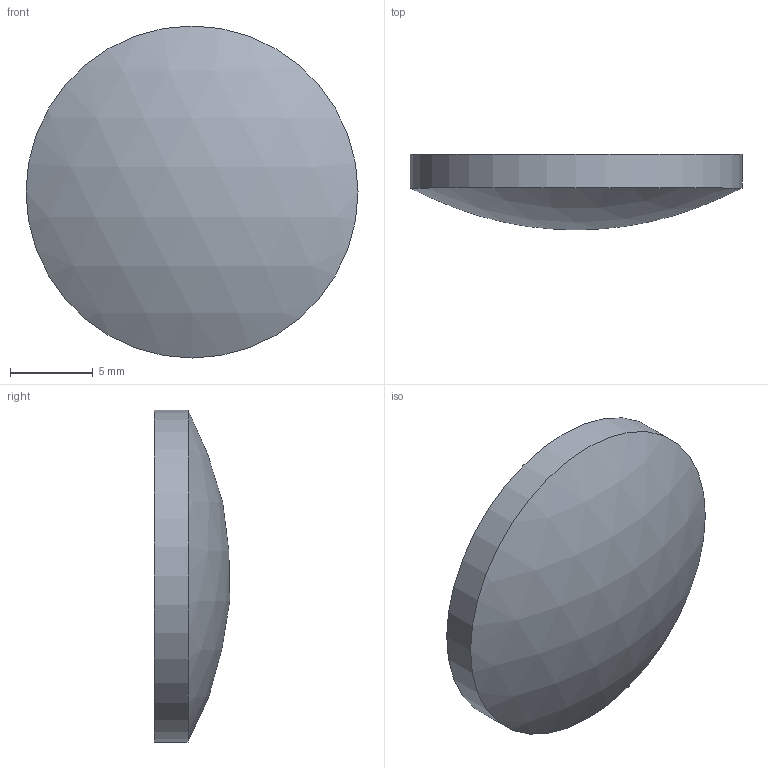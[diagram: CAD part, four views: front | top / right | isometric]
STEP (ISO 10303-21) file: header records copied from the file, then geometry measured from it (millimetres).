
FILE_DESCRIPTION((''),'2;1');
FILE_NAME('Y:\メカ関係\2能登便\素子ﾓﾃﾞﾙ（角屋さま野中さま⇒川島）\5月分\1_球面平凸レンズ-BK7\SLB-P\φ20\SLB-20-40P\SLB-20-40P.stp','2009-05-13T10:11:49',('usernoto011'),(''),'Autodesk Inventor 2008','Autodesk Inventor 2008','');
FILE_SCHEMA(('AUTOMOTIVE_DESIGN { 1 0 10303 214 1 1 1 1 }'));
Length unit declared in the file: millimetre
Products named in the file (1): SLB-20-40P
Bounding box: 20 x 4.55 x 20 mm (x, y, z)
Volume: 1050.7 mm3; surface area: 776.7 mm2
Topology: 1 solids, 1 shells, 3 faces, 3 edges, 2 vertices
Faces by surface type: sphere 1, cylinder 1, plane 1
Full cylindrical faces by diameter (mm): 20 x1
Entity records: 80 total; most frequent: DIRECTION 12, CARTESIAN_POINT 8, AXIS2_PLACEMENT_3D 6, ORIENTED_EDGE 4, EDGE_LOOP 4, FACE_OUTER_BOUND 3, ADVANCED_FACE 3, DIMENSIONAL_EXPONENTS 2
